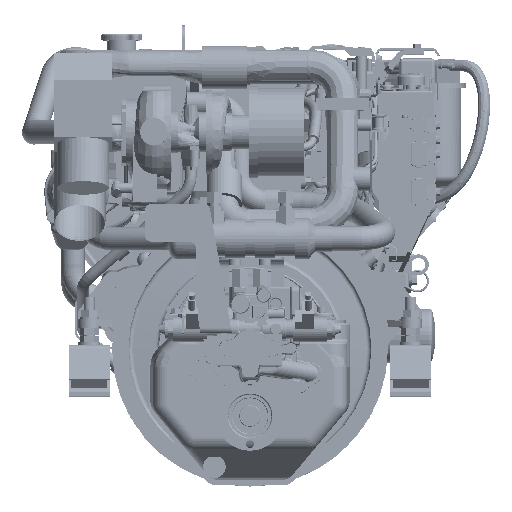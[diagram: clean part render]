
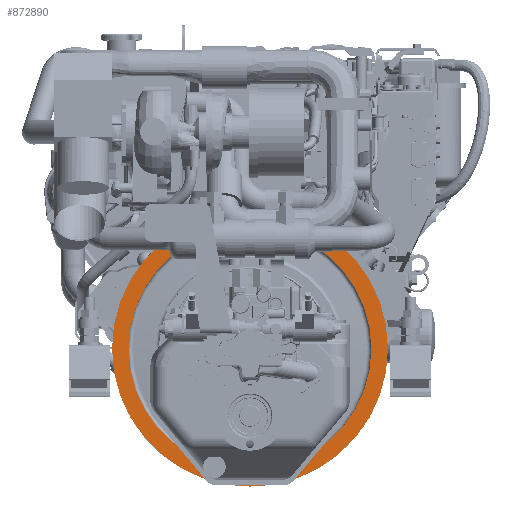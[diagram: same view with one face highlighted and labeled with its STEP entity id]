
A CAD part, top view. The second image highlights one B-rep face of the part: STEP entity #872890.
In plain terms, the highlighted planar face has unit normal (0, 0, 1).
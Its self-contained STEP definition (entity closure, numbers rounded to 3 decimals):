
#838993=CARTESIAN_POINT('',(0.,0.,170.5));
#838994=DIRECTION('',(0.,0.,-1.));
#838995=DIRECTION('',(0.,-1.,0.));
#838996=AXIS2_PLACEMENT_3D('',#838993,#838994,#838995);
#838998=CARTESIAN_POINT('',(0.,0.,170.5));
#838999=DIRECTION('',(0.,0.,-1.));
#839000=DIRECTION('',(0.,1.,0.));
#839001=AXIS2_PLACEMENT_3D('',#838998,#838999,#839000);
#839003=CARTESIAN_POINT('',(0.,0.,170.5));
#839004=DIRECTION('',(0.,0.,1.));
#839005=DIRECTION('',(0.,-1.,0.));
#839006=AXIS2_PLACEMENT_3D('',#839003,#839004,#839005);
#839008=CARTESIAN_POINT('',(0.,0.,170.5));
#839009=DIRECTION('',(0.,0.,1.));
#839010=DIRECTION('',(0.,1.,0.));
#839011=AXIS2_PLACEMENT_3D('',#839008,#839009,#839010);
#843293=CARTESIAN_POINT('',(0.,-177.5,170.5));
#843294=VERTEX_POINT('',#843293);
#843295=CARTESIAN_POINT('',(0.,177.5,170.5));
#843296=VERTEX_POINT('',#843295);
#843297=CARTESIAN_POINT('',(0.,-201.7,170.5));
#843298=CARTESIAN_POINT('',(0.,201.7,170.5));
#843299=VERTEX_POINT('',#843297);
#843300=VERTEX_POINT('',#843298);
#872875=CARTESIAN_POINT('',(0.,0.,170.5));
#872876=DIRECTION('',(0.,0.,1.));
#872877=DIRECTION('',(0.,1.,0.));
#872878=AXIS2_PLACEMENT_3D('',#872875,#872876,#872877);
#872879=PLANE('',#872878);
#872881=ORIENTED_EDGE('',*,*,#872880,.T.);
#872883=ORIENTED_EDGE('',*,*,#872882,.T.);
#872884=EDGE_LOOP('',(#872881,#872883));
#872885=FACE_OUTER_BOUND('',#872884,.F.);
#872886=ORIENTED_EDGE('',*,*,#872870,.T.);
#872887=ORIENTED_EDGE('',*,*,#872854,.T.);
#872888=EDGE_LOOP('',(#872886,#872887));
#872889=FACE_BOUND('',#872888,.F.);
#872890=ADVANCED_FACE('',(#872885,#872889),#872879,.T.);
#838997=CIRCLE('',#838996,201.7);
#839002=CIRCLE('',#839001,201.7);
#839007=CIRCLE('',#839006,177.5);
#839012=CIRCLE('',#839011,177.5);
#872854=EDGE_CURVE('',#843296,#843294,#839012,.T.);
#872870=EDGE_CURVE('',#843294,#843296,#839007,.T.);
#872880=EDGE_CURVE('',#843299,#843300,#838997,.T.);
#872882=EDGE_CURVE('',#843300,#843299,#839002,.T.);
